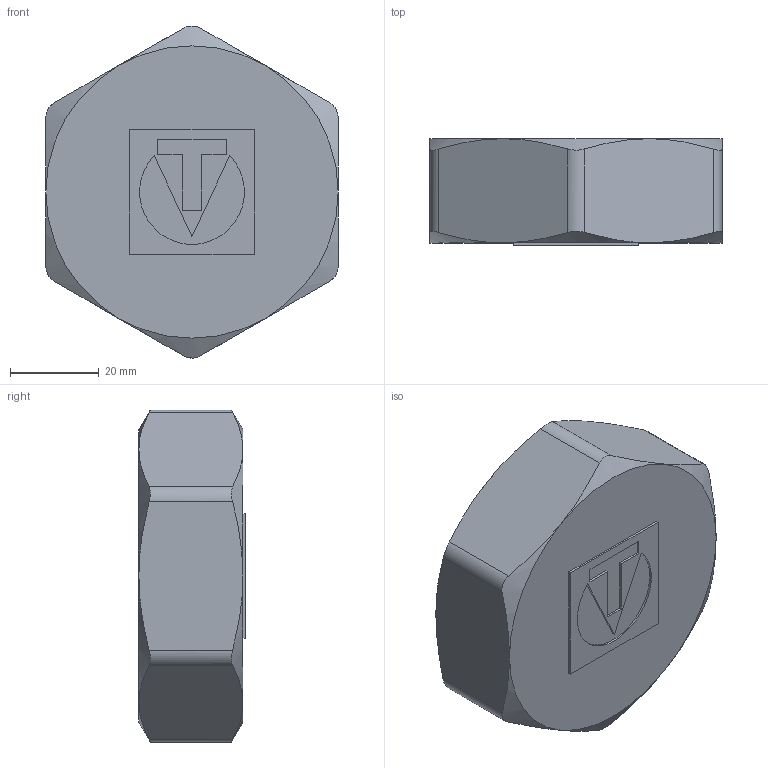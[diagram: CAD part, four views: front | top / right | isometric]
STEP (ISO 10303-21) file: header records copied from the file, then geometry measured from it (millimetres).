
FILE_DESCRIPTION(('STEP AP203'), '1');
FILE_NAME('ÂÐ.752513.015 - VTr.590.N.0009 Çàãë. ðåçüá', '2024-07-08T07:27:55', ('Boss'), (''), 'C3D Converter', 'C3D Toolkit', '');
FILE_SCHEMA(('CONFIG_CONTROL_DESIGN'));
Length unit declared in the file: millimetre
Products named in the file (1): ВР.752513.015
Bounding box: 66 x 24 x 74.96 mm (x, y, z)
Volume: 37400.3 mm3; surface area: 16013.2 mm2
Topology: 1 solids, 1 shells, 47 faces, 110 edges, 69 vertices
Faces by surface type: plane 26, cone 13, cylinder 8
Full cylindrical faces by diameter (mm): 56.657 x1
Entity records: 2480 total; most frequent: CARTESIAN_POINT 1477, ORIENTED_EDGE 208, DIRECTION 177, EDGE_CURVE 104, VERTEX_POINT 67, AXIS2_PLACEMENT_3D 61, LINE 55, VECTOR 55
